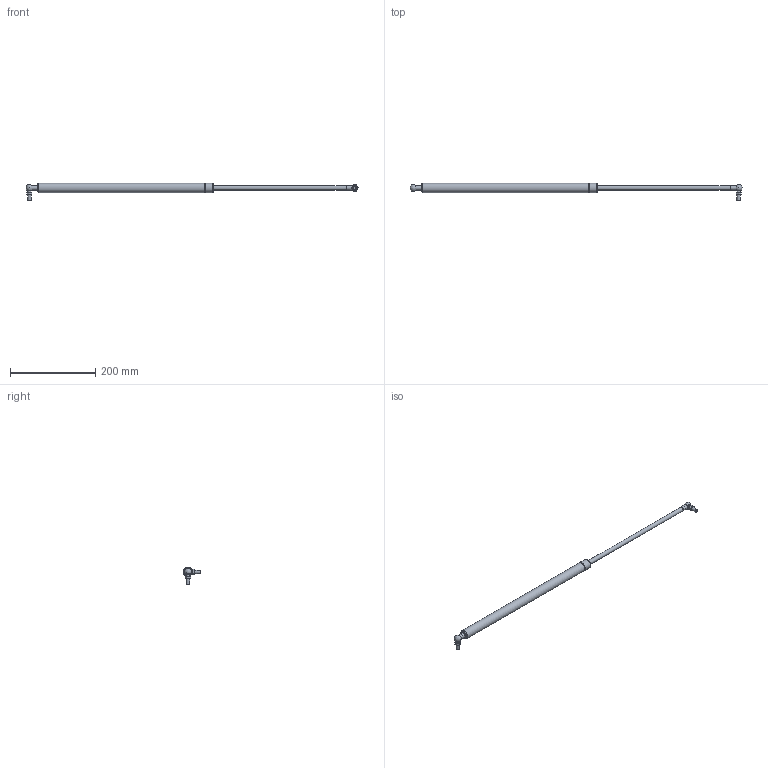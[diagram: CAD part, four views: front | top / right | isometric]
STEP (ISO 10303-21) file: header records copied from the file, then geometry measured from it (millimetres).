
FILE_DESCRIPTION(/* description */ (''),/* implementation_level */ '2;1');
FILE_NAME(/* name */ '\\SYNOLOGYNAS\web\db2\SBG-761-B\SBG-761-B.stp',/* time_stamp */ '2026-07-25T14:06:27+09:00',/* author */ ('user'),/* organization */ (''),/* preprocessor_version */ 'ST-DEVELOPER v15.6',/* originating_system */ 'Autodesk Inventor 2015',/* authorisation */ '');
FILE_SCHEMA (('AUTOMOTIVE_DESIGN { 1 0 10303 214 3 1 1 }'));
Length unit declared in the file: millimetre
Products named in the file (7): SBG-761-B (3); SBG-761-B (1); SBG-761-B (2); 링크볼_B-3; 링크볼_B-2; 링크볼_B; SBG-761-B
Bounding box: 776.88 x 41.07 x 41.07 mm (x, y, z)
Volume: 87453.4 mm3; surface area: 70605 mm2
Topology: 7 solids, 7 shells, 109 faces, 230 edges, 146 vertices
Faces by surface type: plane 53, cone 22, cylinder 21, torus 7, sphere 6
Full cylindrical faces by diameter (mm): 3.8 x1, 6.647 x2, 7.8 x4, 8 x1, 8.4 x2, 10 x1, 11 x2, 14 x2, 16 x1, 18 x1, 20 x1, 21 x1, 22 x2
Entity records: 1839 total; most frequent: CARTESIAN_POINT 330, DIRECTION 311, ORIENTED_EDGE 200, AXIS2_PLACEMENT_3D 145, EDGE_LOOP 116, EDGE_CURVE 100, VERTEX_POINT 80, ADVANCED_FACE 71
